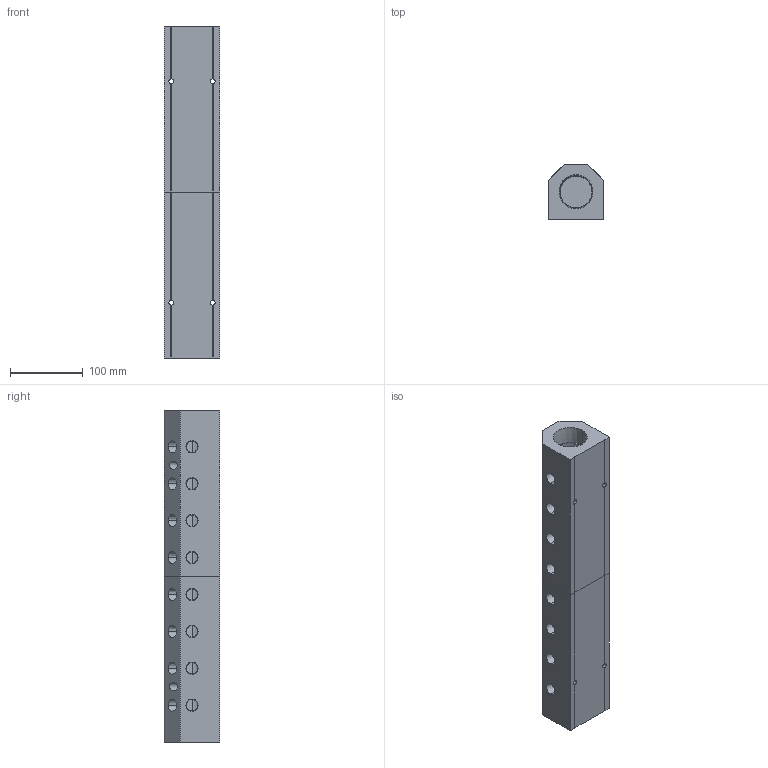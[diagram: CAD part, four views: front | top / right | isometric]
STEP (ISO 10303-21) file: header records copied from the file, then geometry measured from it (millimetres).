
FILE_DESCRIPTION (( 'STEP AP214' ), '1' );
FILE_NAME ('ALM8ABC-N6N24-457RB.step', '2022-02-07T09:16:11', ( '' ), ( '' ), 'SwSTEP 2.0', 'SolidWorks 2020', '' );
FILE_SCHEMA (( 'AUTOMOTIVE_DESIGN' ));
Length unit declared in the file: millimetre
Products named in the file (1): ALM8ABC-N6N24-457RB
Bounding box: 76.2 x 76.2 x 457 mm (x, y, z)
Volume: 1625202 mm3; surface area: 227767.3 mm2
Topology: 2 solids, 2 shells, 398 faces, 1059 edges, 698 vertices
Faces by surface type: plane 251, bspline 75, cone 52, cylinder 20
Entity records: 22924 total; most frequent: CARTESIAN_POINT 9695, ORIENTED_EDGE 2118, DIRECTION 1581, EDGE_CURVE 1059, VECTOR 757, LINE 757, VERTEX_POINT 698, EDGE_LOOP 487
